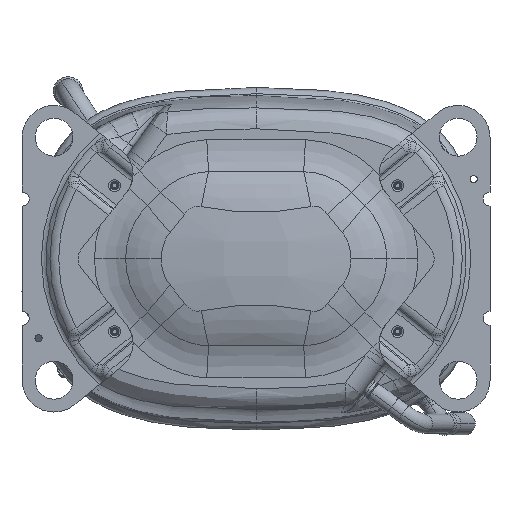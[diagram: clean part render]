
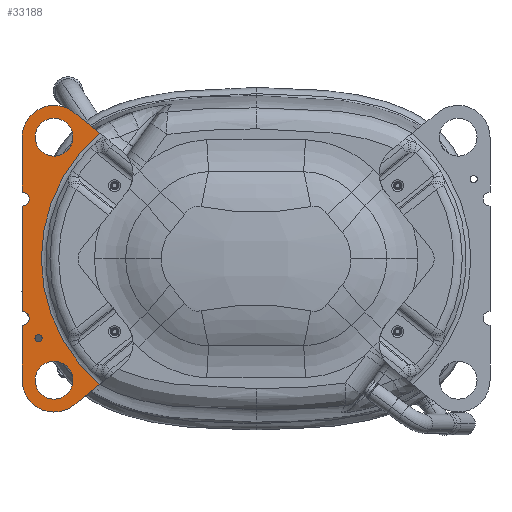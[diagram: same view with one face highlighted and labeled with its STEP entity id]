
A CAD part, front view. The second image highlights one B-rep face of the part: STEP entity #33188.
In plain terms, the highlighted planar face has unit normal (0, -1, 0) as drawn and (0, 1, 0) by its records, which use the part's own axes.
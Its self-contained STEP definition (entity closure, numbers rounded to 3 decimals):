
#31211=CARTESIAN_POINT('',(-76.2,3.,-61.1));
#31212=DIRECTION('',(0.,1.,0.));
#31213=DIRECTION('',(-1.,0.,0.));
#31214=AXIS2_PLACEMENT_3D('',#31211,#31212,#31213);
#31216=CARTESIAN_POINT('',(-76.2,3.,-61.1));
#31217=DIRECTION('',(0.,1.,0.));
#31218=DIRECTION('',(1.,0.,0.));
#31219=AXIS2_PLACEMENT_3D('',#31216,#31217,#31218);
#31221=CARTESIAN_POINT('',(-76.2,3.,61.1));
#31222=DIRECTION('',(0.,1.,0.));
#31223=DIRECTION('',(-1.,0.,0.));
#31224=AXIS2_PLACEMENT_3D('',#31221,#31222,#31223);
#31226=CARTESIAN_POINT('',(-76.2,3.,61.1));
#31227=DIRECTION('',(0.,1.,0.));
#31228=DIRECTION('',(1.,0.,0.));
#31229=AXIS2_PLACEMENT_3D('',#31226,#31227,#31228);
#31231=CARTESIAN_POINT('',(-84.,3.,40.));
#31232=DIRECTION('',(0.,-1.,0.));
#31233=DIRECTION('',(1.,0.,0.));
#31234=AXIS2_PLACEMENT_3D('',#31231,#31232,#31233);
#31236=CARTESIAN_POINT('',(-84.,3.,40.));
#31237=DIRECTION('',(0.,-1.,0.));
#31238=DIRECTION('',(-1.,0.,0.));
#31239=AXIS2_PLACEMENT_3D('',#31236,#31237,#31238);
#31241=CARTESIAN_POINT('',(-76.2,3.,-61.1));
#31242=DIRECTION('',(0.,1.,0.));
#31243=DIRECTION('',(0.626,0.,-0.78));
#31244=AXIS2_PLACEMENT_3D('',#31241,#31242,#31243);
#31246=CARTESIAN_POINT('',(-76.2,3.,61.1));
#31247=DIRECTION('',(0.,1.,0.));
#31248=DIRECTION('',(-1.,0.,0.));
#31249=AXIS2_PLACEMENT_3D('',#31246,#31247,#31248);
#31276=CARTESIAN_POINT('',(-92.2,3.,30.));
#31277=DIRECTION('',(0.,-1.,0.));
#31278=DIRECTION('',(0.,0.,-1.));
#31279=AXIS2_PLACEMENT_3D('',#31276,#31277,#31278);
#31285=DIRECTION('',(0.,0.,1.));
#31286=VECTOR('',#31285,27.6);
#31287=CARTESIAN_POINT('',(-92.2,3.,33.5));
#31288=LINE('',#31287,#31286);
#31297=DIRECTION('',(0.,0.,1.));
#31298=VECTOR('',#31297,53.);
#31299=CARTESIAN_POINT('',(-92.2,3.,-26.5));
#31300=LINE('',#31299,#31298);
#31309=DIRECTION('',(0.,0.,1.));
#31310=VECTOR('',#31309,27.6);
#31311=CARTESIAN_POINT('',(-92.2,3.,-61.1));
#31312=LINE('',#31311,#31310);
#31331=DIRECTION('',(0.78,0.,-0.626));
#31332=VECTOR('',#31331,16.667);
#31333=CARTESIAN_POINT('',(-66.191,3.,73.583));
#31334=LINE('',#31333,#31332);
#31382=DIRECTION('',(0.78,0.,0.626));
#31383=VECTOR('',#31382,16.667);
#31384=CARTESIAN_POINT('',(-66.191,3.,-73.583));
#31385=LINE('',#31384,#31383);
#32006=CARTESIAN_POINT('',(0.,3.,0.));
#32007=DIRECTION('',(0.,-1.,0.));
#32008=DIRECTION('',(-0.644,0.,0.765));
#32009=AXIS2_PLACEMENT_3D('',#32006,#32007,#32008);
#32761=CARTESIAN_POINT('',(-92.2,3.,-30.));
#32762=DIRECTION('',(0.,-1.,0.));
#32763=DIRECTION('',(0.,0.,-1.));
#32764=AXIS2_PLACEMENT_3D('',#32761,#32762,#32763);
#32798=CARTESIAN_POINT('',(-85.7,3.,-61.1));
#32799=CARTESIAN_POINT('',(-66.7,3.,-61.1));
#32800=VERTEX_POINT('',#32798);
#32801=VERTEX_POINT('',#32799);
#32802=CARTESIAN_POINT('',(-85.7,3.,61.1));
#32803=CARTESIAN_POINT('',(-66.7,3.,61.1));
#32804=VERTEX_POINT('',#32802);
#32805=VERTEX_POINT('',#32803);
#32806=CARTESIAN_POINT('',(-92.2,3.,61.1));
#32807=CARTESIAN_POINT('',(-66.191,3.,73.583));
#32808=VERTEX_POINT('',#32806);
#32809=VERTEX_POINT('',#32807);
#32810=CARTESIAN_POINT('',(-66.191,3.,-73.583));
#32811=CARTESIAN_POINT('',(-92.2,3.,-61.1));
#32812=VERTEX_POINT('',#32810);
#32813=VERTEX_POINT('',#32811);
#32819=CARTESIAN_POINT('',(-53.187,3.,63.155));
#32820=CARTESIAN_POINT('',(-53.187,3.,-63.155));
#32821=VERTEX_POINT('',#32819);
#32822=VERTEX_POINT('',#32820);
#33063=CARTESIAN_POINT('',(-82.21,3.,40.));
#33064=CARTESIAN_POINT('',(-85.79,3.,40.));
#33065=VERTEX_POINT('',#33063);
#33066=VERTEX_POINT('',#33064);
#33067=CARTESIAN_POINT('',(-92.2,3.,33.5));
#33069=VERTEX_POINT('',#33067);
#33071=CARTESIAN_POINT('',(-92.2,3.,26.5));
#33073=VERTEX_POINT('',#33071);
#33075=CARTESIAN_POINT('',(-92.2,3.,-26.5));
#33077=VERTEX_POINT('',#33075);
#33079=CARTESIAN_POINT('',(-92.2,3.,-33.5));
#33081=VERTEX_POINT('',#33079);
#33144=CARTESIAN_POINT('',(0.,3.,0.));
#33145=DIRECTION('',(0.,1.,0.));
#33146=DIRECTION('',(0.641,0.,0.767));
#33147=AXIS2_PLACEMENT_3D('',#33144,#33145,#33146);
#33148=PLANE('',#33147);
#33150=ORIENTED_EDGE('',*,*,#33149,.F.);
#33152=ORIENTED_EDGE('',*,*,#33151,.F.);
#33154=ORIENTED_EDGE('',*,*,#33153,.F.);
#33156=ORIENTED_EDGE('',*,*,#33155,.F.);
#33158=ORIENTED_EDGE('',*,*,#33157,.F.);
#33160=ORIENTED_EDGE('',*,*,#33159,.T.);
#33162=ORIENTED_EDGE('',*,*,#33161,.F.);
#33164=ORIENTED_EDGE('',*,*,#33163,.F.);
#33166=ORIENTED_EDGE('',*,*,#33165,.F.);
#33168=ORIENTED_EDGE('',*,*,#33167,.F.);
#33169=EDGE_LOOP('',(#33150,#33152,#33154,#33156,#33158,#33160,#33162,#33164,
#33166,#33168));
#33170=FACE_OUTER_BOUND('',#33169,.F.);
#33172=ORIENTED_EDGE('',*,*,#33171,.T.);
#33174=ORIENTED_EDGE('',*,*,#33173,.T.);
#33175=EDGE_LOOP('',(#33172,#33174));
#33176=FACE_BOUND('',#33175,.F.);
#33178=ORIENTED_EDGE('',*,*,#33177,.F.);
#33180=ORIENTED_EDGE('',*,*,#33179,.F.);
#33181=EDGE_LOOP('',(#33178,#33180));
#33182=FACE_BOUND('',#33181,.F.);
#33183=ORIENTED_EDGE('',*,*,#33134,.T.);
#33185=ORIENTED_EDGE('',*,*,#33184,.T.);
#33186=EDGE_LOOP('',(#33183,#33185));
#33187=FACE_BOUND('',#33186,.F.);
#33188=ADVANCED_FACE('',(#33170,#33176,#33182,#33187),#33148,.T.);
#31215=CIRCLE('',#31214,9.5);
#31220=CIRCLE('',#31219,9.5);
#31225=CIRCLE('',#31224,9.5);
#31230=CIRCLE('',#31229,9.5);
#31235=CIRCLE('',#31234,1.79);
#31240=CIRCLE('',#31239,1.79);
#31245=CIRCLE('',#31244,16.);
#31250=CIRCLE('',#31249,16.);
#31280=CIRCLE('',#31279,3.5);
#32010=CIRCLE('',#32009,82.568);
#32765=CIRCLE('',#32764,3.5);
#33134=EDGE_CURVE('',#32800,#32801,#31215,.T.);
#33149=EDGE_CURVE('',#33073,#33069,#31280,.T.);
#33151=EDGE_CURVE('',#33077,#33073,#31300,.T.);
#33153=EDGE_CURVE('',#33081,#33077,#32765,.T.);
#33155=EDGE_CURVE('',#32813,#33081,#31312,.T.);
#33157=EDGE_CURVE('',#32812,#32813,#31245,.T.);
#33159=EDGE_CURVE('',#32812,#32822,#31385,.T.);
#33161=EDGE_CURVE('',#32821,#32822,#32010,.T.);
#33163=EDGE_CURVE('',#32809,#32821,#31334,.T.);
#33165=EDGE_CURVE('',#32808,#32809,#31250,.T.);
#33167=EDGE_CURVE('',#33069,#32808,#31288,.T.);
#33171=EDGE_CURVE('',#32804,#32805,#31225,.T.);
#33173=EDGE_CURVE('',#32805,#32804,#31230,.T.);
#33177=EDGE_CURVE('',#33065,#33066,#31235,.T.);
#33179=EDGE_CURVE('',#33066,#33065,#31240,.T.);
#33184=EDGE_CURVE('',#32801,#32800,#31220,.T.);
